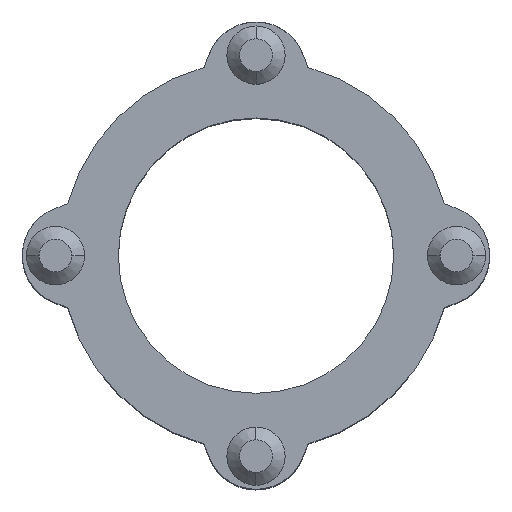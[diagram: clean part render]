
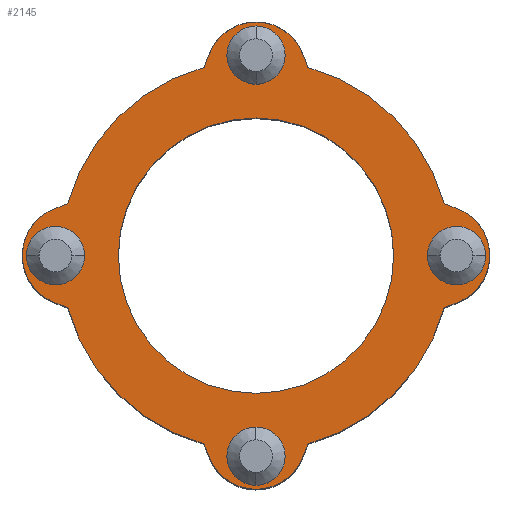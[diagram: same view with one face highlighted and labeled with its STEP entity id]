
A CAD part, top view. The second image highlights one B-rep face of the part: STEP entity #2145.
In plain terms, the highlighted planar face has unit normal (0, 0, 1).
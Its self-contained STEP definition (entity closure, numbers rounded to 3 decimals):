
#1012=CARTESIAN_POINT('',(0.,0.,0.));
#1013=DIRECTION('',(0.,0.,1.));
#1014=DIRECTION('',(0.266,-0.964,0.));
#1015=AXIS2_PLACEMENT_3D('',#1012,#1013,#1014);
#1034=CARTESIAN_POINT('',(0.,0.,0.));
#1035=DIRECTION('',(0.,0.,1.));
#1036=DIRECTION('',(0.964,0.266,0.));
#1037=AXIS2_PLACEMENT_3D('',#1034,#1035,#1036);
#1048=CARTESIAN_POINT('',(0.,0.,0.));
#1049=DIRECTION('',(0.,0.,1.));
#1050=DIRECTION('',(-0.964,-0.266,0.));
#1051=AXIS2_PLACEMENT_3D('',#1048,#1049,#1050);
#1066=CARTESIAN_POINT('',(0.,0.,0.));
#1067=DIRECTION('',(0.,0.,1.));
#1068=DIRECTION('',(-0.266,0.964,0.));
#1069=AXIS2_PLACEMENT_3D('',#1066,#1067,#1068);
#1084=DIRECTION('',(-0.935,0.355,0.));
#1085=VECTOR('',#1084,6.031);
#1086=CARTESIAN_POINT('',(88.067,20.564,0.));
#1087=LINE('',#1086,#1085);
#1088=CARTESIAN_POINT('',(80.25,0.,0.));
#1089=DIRECTION('',(0.,0.,1.));
#1090=DIRECTION('',(0.355,-0.935,0.));
#1091=AXIS2_PLACEMENT_3D('',#1088,#1089,#1090);
#1093=DIRECTION('',(0.935,0.355,0.));
#1094=VECTOR('',#1093,6.031);
#1095=CARTESIAN_POINT('',(82.43,-22.707,0.));
#1096=LINE('',#1095,#1094);
#1097=DIRECTION('',(0.355,0.935,0.));
#1098=VECTOR('',#1097,6.031);
#1099=CARTESIAN_POINT('',(20.564,-88.067,
0.));
#1100=LINE('',#1099,#1098);
#1101=CARTESIAN_POINT('',(0.,-80.25,0.));
#1102=DIRECTION('',(0.,0.,1.));
#1103=DIRECTION('',(-0.935,-0.355,0.));
#1104=AXIS2_PLACEMENT_3D('',#1101,#1102,#1103);
#1106=DIRECTION('',(0.355,-0.935,0.));
#1107=VECTOR('',#1106,6.031);
#1108=CARTESIAN_POINT('',(-22.707,-82.43,
0.));
#1109=LINE('',#1108,#1107);
#1110=DIRECTION('',(0.935,-0.355,0.));
#1111=VECTOR('',#1110,6.031);
#1112=CARTESIAN_POINT('',(-88.067,-20.564,0.));
#1113=LINE('',#1112,#1111);
#1114=CARTESIAN_POINT('',(-80.25,0.,0.));
#1115=DIRECTION('',(0.,0.,1.));
#1116=DIRECTION('',(-0.355,0.935,0.));
#1117=AXIS2_PLACEMENT_3D('',#1114,#1115,#1116);
#1119=DIRECTION('',(-0.935,-0.355,0.));
#1120=VECTOR('',#1119,6.031);
#1121=CARTESIAN_POINT('',(-82.43,22.707,0.));
#1122=LINE('',#1121,#1120);
#1123=DIRECTION('',(-0.355,-0.935,0.));
#1124=VECTOR('',#1123,6.031);
#1125=CARTESIAN_POINT('',(-20.564,88.067,0.));
#1126=LINE('',#1125,#1124);
#1127=CARTESIAN_POINT('',(0.,80.25,0.));
#1128=DIRECTION('',(0.,0.,1.));
#1129=DIRECTION('',(0.935,0.355,0.));
#1130=AXIS2_PLACEMENT_3D('',#1127,#1128,#1129);
#1132=DIRECTION('',(-0.355,0.935,0.));
#1133=VECTOR('',#1132,6.031);
#1134=CARTESIAN_POINT('',(22.707,82.43,0.));
#1135=LINE('',#1134,#1133);
#1324=CARTESIAN_POINT('',(0.,0.,0.));
#1325=DIRECTION('',(0.,0.,-1.));
#1326=DIRECTION('',(0.,1.,0.));
#1327=AXIS2_PLACEMENT_3D('',#1324,#1325,#1326);
#1333=CARTESIAN_POINT('',(0.,0.,0.));
#1334=DIRECTION('',(0.,0.,1.));
#1335=DIRECTION('',(0.,1.,0.));
#1336=AXIS2_PLACEMENT_3D('',#1333,#1334,#1335);
#1349=CARTESIAN_POINT('',(0.,60.25,0.));
#1351=VERTEX_POINT('',#1349);
#1353=CARTESIAN_POINT('',(0.,-60.25,0.));
#1355=VERTEX_POINT('',#1353);
#1357=CARTESIAN_POINT('',(20.564,88.067,0.));
#1358=CARTESIAN_POINT('',(-20.564,88.067,0.));
#1359=VERTEX_POINT('',#1357);
#1360=VERTEX_POINT('',#1358);
#1364=CARTESIAN_POINT('',(-22.707,82.43,0.));
#1366=VERTEX_POINT('',#1364);
#1367=CARTESIAN_POINT('',(-88.067,20.564,0.));
#1368=CARTESIAN_POINT('',(-88.067,-20.564,0.));
#1369=VERTEX_POINT('',#1367);
#1370=VERTEX_POINT('',#1368);
#1374=CARTESIAN_POINT('',(-82.43,-22.707,0.));
#1376=VERTEX_POINT('',#1374);
#1377=CARTESIAN_POINT('',(-82.43,22.707,0.));
#1378=VERTEX_POINT('',#1377);
#1379=CARTESIAN_POINT('',(-20.564,-88.067,
0.));
#1380=CARTESIAN_POINT('',(20.564,-88.067,
0.));
#1381=VERTEX_POINT('',#1379);
#1382=VERTEX_POINT('',#1380);
#1386=CARTESIAN_POINT('',(22.707,-82.43,
0.));
#1388=VERTEX_POINT('',#1386);
#1389=CARTESIAN_POINT('',(-22.707,-82.43,
0.));
#1390=VERTEX_POINT('',#1389);
#1391=CARTESIAN_POINT('',(88.067,-20.564,0.));
#1392=CARTESIAN_POINT('',(88.067,20.564,0.));
#1393=VERTEX_POINT('',#1391);
#1394=VERTEX_POINT('',#1392);
#1398=CARTESIAN_POINT('',(82.43,22.707,0.));
#1400=VERTEX_POINT('',#1398);
#1401=CARTESIAN_POINT('',(82.43,-22.707,0.));
#1402=VERTEX_POINT('',#1401);
#1403=CARTESIAN_POINT('',(22.707,82.43,0.));
#1404=VERTEX_POINT('',#1403);
#2106=CARTESIAN_POINT('',(0.,0.,0.));
#2107=DIRECTION('',(0.,0.,1.));
#2108=DIRECTION('',(0.,1.,0.));
#2109=AXIS2_PLACEMENT_3D('',#2106,#2107,#2108);
#2110=PLANE('',#2109);
#2111=ORIENTED_EDGE('',*,*,#2068,.F.);
#2112=ORIENTED_EDGE('',*,*,#2042,.F.);
#2113=ORIENTED_EDGE('',*,*,#1845,.F.);
#2115=ORIENTED_EDGE('',*,*,#2114,.F.);
#2116=ORIENTED_EDGE('',*,*,#2052,.F.);
#2118=ORIENTED_EDGE('',*,*,#2117,.F.);
#2120=ORIENTED_EDGE('',*,*,#2119,.F.);
#2122=ORIENTED_EDGE('',*,*,#2121,.F.);
#2123=ORIENTED_EDGE('',*,*,#2081,.F.);
#2125=ORIENTED_EDGE('',*,*,#2124,.F.);
#2127=ORIENTED_EDGE('',*,*,#2126,.F.);
#2129=ORIENTED_EDGE('',*,*,#2128,.F.);
#2130=ORIENTED_EDGE('',*,*,#2096,.F.);
#2132=ORIENTED_EDGE('',*,*,#2131,.F.);
#2134=ORIENTED_EDGE('',*,*,#2133,.F.);
#2136=ORIENTED_EDGE('',*,*,#2135,.F.);
#2137=EDGE_LOOP('',(#2111,#2112,#2113,#2115,#2116,#2118,#2120,#2122,#2123,#2125,
#2127,#2129,#2130,#2132,#2134,#2136));
#2138=FACE_OUTER_BOUND('',#2137,.F.);
#2140=ORIENTED_EDGE('',*,*,#2139,.F.);
#2142=ORIENTED_EDGE('',*,*,#2141,.T.);
#2143=EDGE_LOOP('',(#2140,#2142));
#2144=FACE_BOUND('',#2143,.F.);
#2145=ADVANCED_FACE('',(#2138,#2144),#2110,.T.);
#1016=CIRCLE('',#1015,85.5);
#1038=CIRCLE('',#1037,85.5);
#1052=CIRCLE('',#1051,85.5);
#1070=CIRCLE('',#1069,85.5);
#1092=CIRCLE('',#1091,22.);
#1105=CIRCLE('',#1104,22.);
#1118=CIRCLE('',#1117,22.);
#1131=CIRCLE('',#1130,22.);
#1328=CIRCLE('',#1327,60.25);
#1337=CIRCLE('',#1336,60.25);
#1845=EDGE_CURVE('',#1393,#1394,#1092,.T.);
#2042=EDGE_CURVE('',#1394,#1400,#1087,.T.);
#2052=EDGE_CURVE('',#1388,#1402,#1016,.T.);
#2068=EDGE_CURVE('',#1400,#1404,#1038,.T.);
#2081=EDGE_CURVE('',#1376,#1390,#1052,.T.);
#2096=EDGE_CURVE('',#1366,#1378,#1070,.T.);
#2114=EDGE_CURVE('',#1402,#1393,#1096,.T.);
#2117=EDGE_CURVE('',#1382,#1388,#1100,.T.);
#2119=EDGE_CURVE('',#1381,#1382,#1105,.T.);
#2121=EDGE_CURVE('',#1390,#1381,#1109,.T.);
#2124=EDGE_CURVE('',#1370,#1376,#1113,.T.);
#2126=EDGE_CURVE('',#1369,#1370,#1118,.T.);
#2128=EDGE_CURVE('',#1378,#1369,#1122,.T.);
#2131=EDGE_CURVE('',#1360,#1366,#1126,.T.);
#2133=EDGE_CURVE('',#1359,#1360,#1131,.T.);
#2135=EDGE_CURVE('',#1404,#1359,#1135,.T.);
#2139=EDGE_CURVE('',#1351,#1355,#1328,.T.);
#2141=EDGE_CURVE('',#1351,#1355,#1337,.T.);
